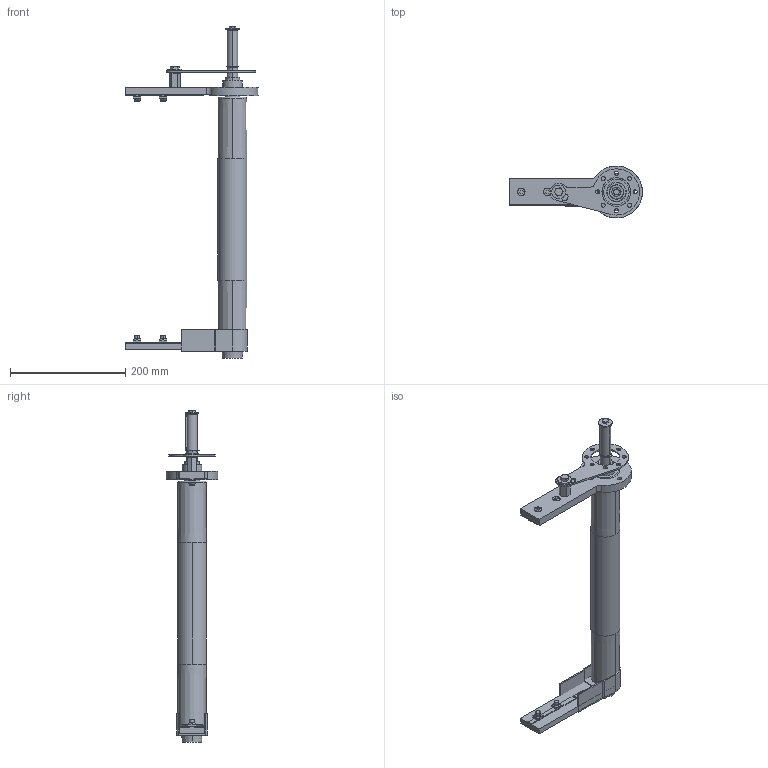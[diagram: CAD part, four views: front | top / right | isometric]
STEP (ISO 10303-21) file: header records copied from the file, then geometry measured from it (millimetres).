
FILE_DESCRIPTION (( 'STEP AP203' ), '1' );
FILE_NAME ('084.050.KD.44.STEP', '2014-10-02T09:08:28', ( '' ), ( '' ), 'SwSTEP 2.0', 'SolidWorks 2012', '' );
FILE_SCHEMA (( 'CONFIG_CONTROL_DESIGN' ));
Length unit declared in the file: millimetre
Products named in the file (1): 084.050.KD.44
Bounding box: 230 x 90 x 575 mm (x, y, z)
Volume: 691644.7 mm3; surface area: 379683.5 mm2
Topology: 35 solids, 36 shells, 773 faces, 1906 edges, 1233 vertices
Faces by surface type: plane 335, cylinder 275, cone 86, torus 68, sphere 9
Entity records: 23712 total; most frequent: CARTESIAN_POINT 4665, DIRECTION 4217, ORIENTED_EDGE 3768, EDGE_CURVE 1884, AXIS2_PLACEMENT_3D 1652, VERTEX_POINT 1222, LINE 913, VECTOR 913
